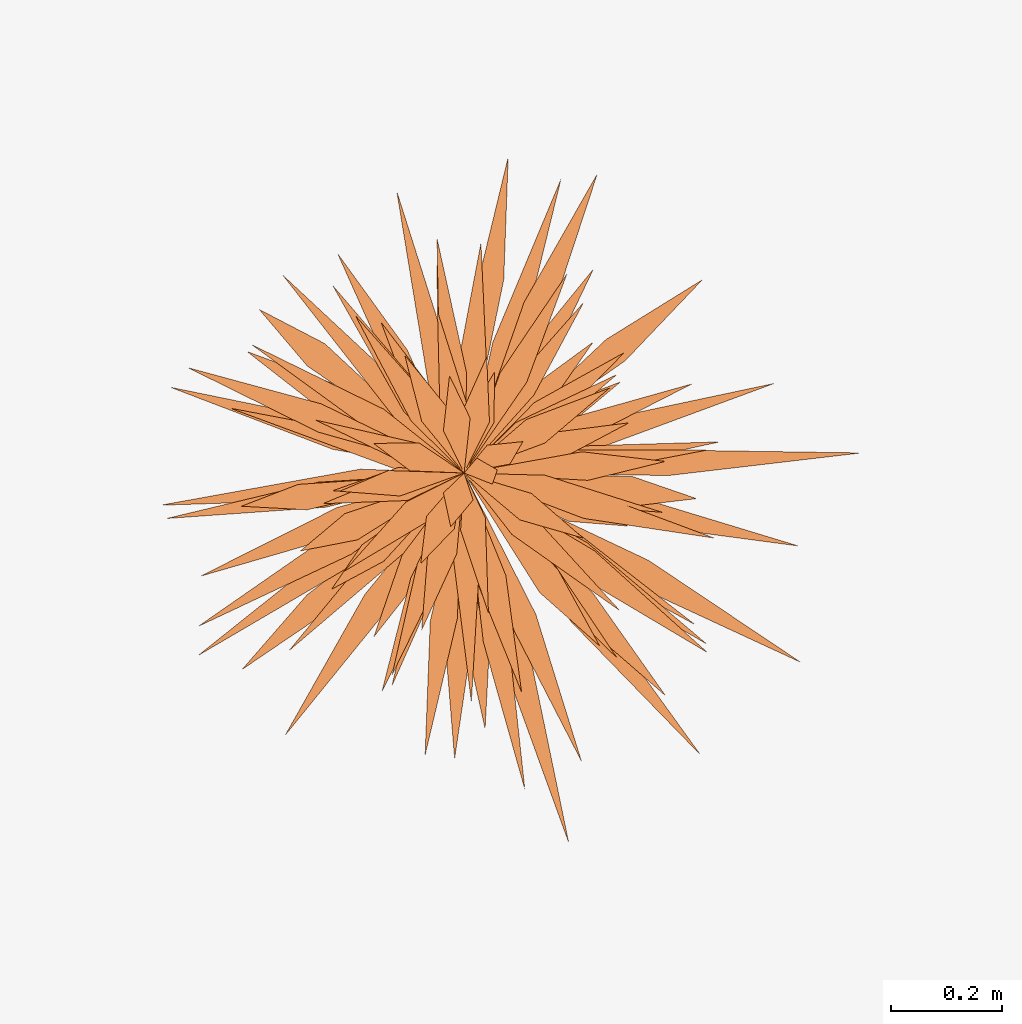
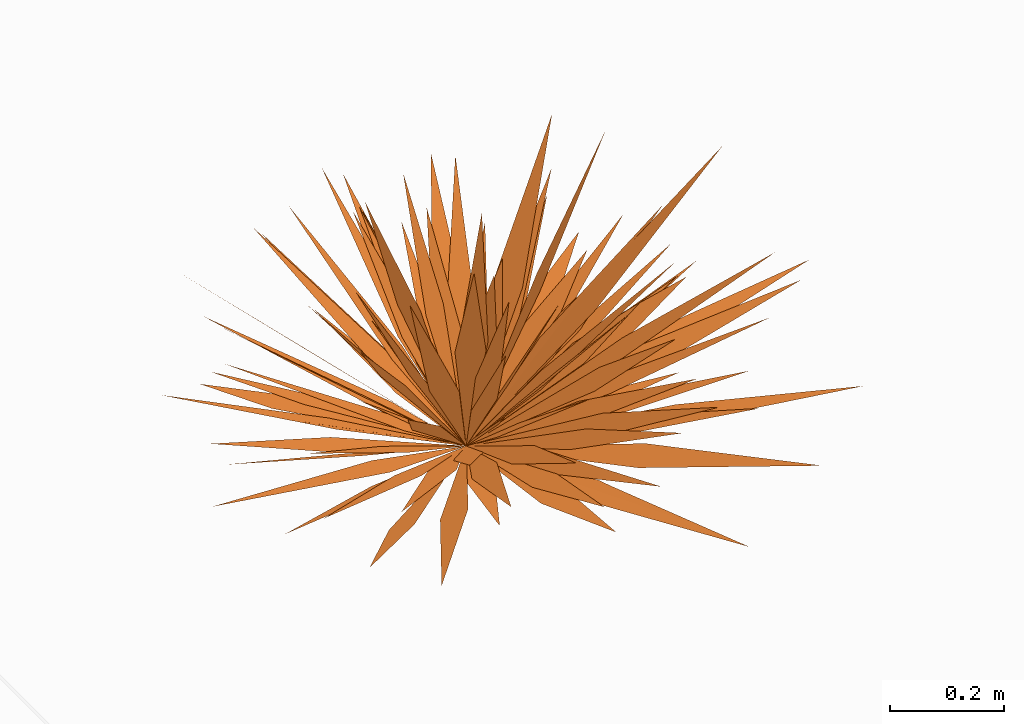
# One storey, part 6 of 7: 1 proxy.
"""IFC2X3 building model written with IfcOpenShell, lengths in metres."""

from ifc_helpers import new_model, entity, si_unit, converted_unit, derived_unit, money_unit, direction, frame, origin_with_axes, place, context, subcontext, project, spatial, open_shell, surface_model, type_object, element, save


model = new_model("IFC2X3")

# Units and contexts
model_context = context("Model", 3, precision=1e-05, world=origin_with_axes(), true_north=direction((0.0, 1.0)))
body_context = subcontext(model_context, "Body", "Model", "MODEL_VIEW")
ifc_project = project(units=[si_unit("LENGTHUNIT", "METRE"), si_unit("AREAUNIT", "SQUARE_METRE"), si_unit("VOLUMEUNIT", "CUBIC_METRE"), converted_unit("PLANEANGLEUNIT", "DEGREE", entity("IfcPlaneAngleMeasure", 0.0174532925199), si_unit("PLANEANGLEUNIT", "RADIAN"), dimensions=[0, 0, 0, 0, 0, 0, 0]), si_unit("SOLIDANGLEUNIT", "STERADIAN"), money_unit("CHF"), converted_unit("TIMEUNIT", "Year", entity("IfcTimeMeasure", 31556926.0), si_unit("TIMEUNIT", "SECOND"), dimensions=[0, 0, 1, 0, 0, 0, 0]), si_unit("MASSUNIT", "GRAM", prefix="KILO"), si_unit("THERMODYNAMICTEMPERATUREUNIT", "DEGREE_CELSIUS"), si_unit("LUMINOUSINTENSITYUNIT", "LUMEN"), si_unit("ENERGYUNIT", "JOULE", prefix="MEGA"), derived_unit("THERMALCONDUCTANCEUNIT", [(si_unit("POWERUNIT", "WATT"), 1), (si_unit("LENGTHUNIT", "METRE"), -1), (si_unit("THERMODYNAMICTEMPERATUREUNIT", "KELVIN"), -1)]), derived_unit("SPECIFICHEATCAPACITYUNIT", [(si_unit("ENERGYUNIT", "JOULE"), 1), (si_unit("MASSUNIT", "GRAM", prefix="KILO"), -1), (si_unit("THERMODYNAMICTEMPERATUREUNIT", "KELVIN"), -1)]), derived_unit("MASSDENSITYUNIT", [(si_unit("MASSUNIT", "GRAM", prefix="KILO"), 1), (si_unit("VOLUMEUNIT", "CUBIC_METRE"), -1)])], contexts=[model_context])

# Site, building, storey
site_placement = place(None, origin_with_axes())
site = spatial("IfcSite", under=ifc_project, at=site_placement, Name="Site", CompositionType="ELEMENT")
building_placement = place(site_placement, origin_with_axes())
building = spatial("IfcBuilding", under=site, at=building_placement, Name="Bâtiment", CompositionType="ELEMENT")
storey_placement = place(building_placement, frame((0.0, 0.0, 9.0), z_axis=(0.0, 0.0, 1.0), x_axis=(1.0, 0.0, 0.0)))
storey = spatial("IfcBuildingStorey", under=building, at=storey_placement, Name="TOITURE", CompositionType="ELEMENT", Elevation=9.0)

# Proxy
building_element_proxy_type = type_object("IfcBuildingElementProxyType", Name="Modèle herbe 24", PredefinedType="NOTDEFINED")
proxy_placement = place(storey_placement, frame((83.2438262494, 5.22679544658, -9.3), z_axis=(0.0, 0.0, 1.0), x_axis=(0.0, -1.0, 0.0)))
element("IfcBuildingElementProxy", 1, at=proxy_placement, inside=storey, type_object=building_element_proxy_type, Name="Symb-0005", context=body_context, shape_type="SurfaceModel", body=[
    surface_model("IfcShellBasedSurfaceModel", [(0.0, 0.0, 0.0), (0.320393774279, 0.117015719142, 0.06360163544), (0.66566454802, 0.188476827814, 0.121988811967), (0.335373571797, 0.0686588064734, 0.0565734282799)], [open_shell([[[0, 1, 2, 3]]])]),
    surface_model("IfcShellBasedSurfaceModel", [(0.0, 0.0, 0.0), (0.234204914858, 0.228331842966, 0.0672935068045), (0.50783729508, 0.426021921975, 0.11688143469), (0.268140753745, 0.193083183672, 0.0483240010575)], [open_shell([[[0, 1, 2, 3]]])]),
    surface_model("IfcShellBasedSurfaceModel", [(0.0, 0.0, 0.0), (0.157257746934, 0.332137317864, 0.0676594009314), (0.341020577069, 0.606517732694, 0.122690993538), (0.202576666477, 0.307841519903, 0.0618003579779)], [open_shell([[[0, 1, 2, 3]]])]),
    surface_model("IfcShellBasedSurfaceModel", [(0.0, 0.0, 0.0), (0.00526185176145, 0.138793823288, 0.036988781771), (0.0776850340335, 0.385817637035, 0.0693954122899), (0.0497282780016, 0.134311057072, 0.0121334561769)], [open_shell([[[0, 1, 2, 3]]])]),
    surface_model("IfcShellBasedSurfaceModel", [(0.0, 0.0, 0.0), (-0.0414534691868, 0.362726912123, 0.0759765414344), (-0.03620941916, 0.715141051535, 0.126260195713), (0.00440093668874, 0.369065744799, 0.0532235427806)], [open_shell([[[0, 1, 2, 3]]])]),
    surface_model("IfcShellBasedSurfaceModel", [(0.0, 0.0, 0.0), (-0.0868409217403, 0.207189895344, 0.0394923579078), (-0.161339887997, 0.55853820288, 0.102511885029), (-0.0370284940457, 0.221630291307, 0.0392115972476)], [open_shell([[[0, 1, 2, 3]]])]),
    surface_model("IfcShellBasedSurfaceModel", [(0.0, 0.0, 0.0), (-0.240429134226, 0.255610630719, 0.0681535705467), (-0.347889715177, 0.428965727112, 0.0973859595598), (-0.201846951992, 0.289738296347, 0.0556542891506)], [open_shell([[[0, 1, 2, 3]]])]),
    surface_model("IfcShellBasedSurfaceModel", [(0.0, 0.0, 0.0), (-0.186813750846, 0.0860380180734, 0.0367440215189), (-0.367229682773, 0.232899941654, 0.0766769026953), (-0.15770003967, 0.132455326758, 0.0351898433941)], [open_shell([[[0, 1, 2, 3]]])]),
    surface_model("IfcShellBasedSurfaceModel", [(0.0, 0.0, 0.0), (-0.235237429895, 0.0515996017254, 0.0532164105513), (-0.52914809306, 0.17445538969, 0.0982431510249), (-0.223365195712, 0.0995975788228, 0.0319290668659)], [open_shell([[[0, 1, 2, 3]]])]),
    surface_model("IfcShellBasedSurfaceModel", [(0.0, 0.0, 0.0), (-0.181819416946, -0.0470516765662, 0.0455781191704), (-0.375034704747, -0.048676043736, 0.0666834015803), (-0.192119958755, -0.00148220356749, 0.0209105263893)], [open_shell([[[0, 1, 2, 3]]])]),
    surface_model("IfcShellBasedSurfaceModel", [(0.0, 0.0, 0.0), (-0.196432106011, -0.138571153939, 0.0543763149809), (-0.394718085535, -0.227486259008, 0.0803308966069), (-0.221982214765, -0.102571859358, 0.0307771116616)], [open_shell([[[0, 1, 2, 3]]])]),
    surface_model("IfcShellBasedSurfaceModel", [(0.0, 0.0, 0.0), (-0.192407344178, -0.282020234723, 0.0624107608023), (-0.294377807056, -0.368688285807, 0.0831899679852), (-0.232940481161, -0.250699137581, 0.0577908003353)], [open_shell([[[0, 1, 2, 3]]])]),
    surface_model("IfcShellBasedSurfaceModel", [(0.0, 0.0, 0.0), (-0.0425200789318, -0.235290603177, 0.0427279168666), (-0.129165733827, -0.441615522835, 0.0811311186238), (-0.091049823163, -0.221382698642, 0.0411695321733)], [open_shell([[[0, 1, 2, 3]]])]),
    surface_model("IfcShellBasedSurfaceModel", [(0.0, 0.0, 0.0), (0.0459125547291, -0.180472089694, 0.0349607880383), (0.0579972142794, -0.546930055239, 0.0969792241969), (-0.00695326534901, -0.186924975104, 0.03018443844)], [open_shell([[[0, 1, 2, 3]]])]),
    surface_model("IfcShellBasedSurfaceModel", [(0.0, 0.0, 0.0), (0.108238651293, -0.206622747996, 0.0513525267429), (0.18573375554, -0.474550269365, 0.0898567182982), (0.0620773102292, -0.228535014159, 0.0310451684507)], [open_shell([[[0, 1, 2, 3]]])]),
    surface_model("IfcShellBasedSurfaceModel", [(0.0, 0.0, 0.0), (0.251763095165, -0.249643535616, 0.0729966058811), (0.353584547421, -0.39955534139, 0.0940777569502), (0.219575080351, -0.282975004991, 0.0524116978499)], [open_shell([[[0, 1, 2, 3]]])]),
    surface_model("IfcShellBasedSurfaceModel", [(0.0, 0.0, 0.0), (0.242652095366, -0.135956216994, 0.0608309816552), (0.472193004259, -0.322155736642, 0.100792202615), (0.218480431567, -0.178653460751, 0.037600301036)], [open_shell([[[0, 1, 2, 3]]])]),
    surface_model("IfcShellBasedSurfaceModel", [(0.0, 0.0, 0.0), (0.130490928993, -0.0182657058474, 0.0233350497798), (0.31280252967, -0.112799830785, 0.0586321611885), (0.112308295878, -0.0692902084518, 0.022175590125)], [open_shell([[[0, 1, 2, 3]]])]),
    surface_model("IfcShellBasedSurfaceModel", [(0.0, 0.0, 0.0), (0.264039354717, 0.0482119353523, 0.0519915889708), (0.460237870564, 0.0377747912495, 0.0814252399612), (0.270035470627, -0.00437685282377, 0.042496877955)], [open_shell([[[0, 1, 2, 3]]])]),
    surface_model("IfcShellBasedSurfaceModel", [(0.0, 0.0, 0.0), (0.275110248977, 0.106919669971, 0.0573183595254), (0.569070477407, 0.163566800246, 0.104405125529), (0.291699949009, 0.055997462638, 0.0466720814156)], [open_shell([[[0, 1, 2, 3]]])]),
    surface_model("IfcShellBasedSurfaceModel", [(0.0, 0.0, 0.0), (0.215521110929, 0.231555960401, 0.115552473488), (0.400809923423, 0.362631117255, 0.196729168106), (0.252303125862, 0.191706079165, 0.114069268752)], [open_shell([[[0, 1, 2, 3]]])]),
    surface_model("IfcShellBasedSurfaceModel", [(0.0, 0.0, 0.0), (0.0750546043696, 0.161528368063, 0.0721968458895), (0.27284699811, 0.415653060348, 0.180967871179), (0.121194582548, 0.137436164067, 0.0579669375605)], [open_shell([[[0, 1, 2, 3]]])]),
    surface_model("IfcShellBasedSurfaceModel", [(0.0, 0.0, 0.0), (0.0483051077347, 0.328411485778, 0.132076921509), (0.131364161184, 0.601951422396, 0.224248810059), (0.0944916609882, 0.325927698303, 0.111688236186)], [open_shell([[[0, 1, 2, 3]]])]),
    surface_model("IfcShellBasedSurfaceModel", [(0.0, 0.0, 0.0), (-0.047350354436, 0.164876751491, 0.0642101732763), (-0.0560698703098, 0.460184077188, 0.16873199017), (0.00617614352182, 0.17305369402, 0.0596960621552)], [open_shell([[[0, 1, 2, 3]]])]),
    surface_model("IfcShellBasedSurfaceModel", [(0.0, 0.0, 0.0), (-0.109379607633, 0.136690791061, 0.0647074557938), (-0.163874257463, 0.281366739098, 0.11851242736), (-0.0654674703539, 0.163515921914, 0.0617404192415)], [open_shell([[[0, 1, 2, 3]]])]),
    surface_model("IfcShellBasedSurfaceModel", [(0.0, 0.0, 0.0), (-0.150824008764, 0.11634683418, 0.0798702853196), (-0.235483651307, 0.232083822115, 0.120339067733), (-0.123585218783, 0.154100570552, 0.0603608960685)], [open_shell([[[0, 1, 2, 3]]])]),
    surface_model("IfcShellBasedSurfaceModel", [(0.0, 0.0, 0.0), (-0.307373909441, 0.107989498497, 0.124072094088), (-0.538090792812, 0.239671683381, 0.21439799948), (-0.289332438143, 0.157790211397, 0.113680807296)], [open_shell([[[0, 1, 2, 3]]])]),
    surface_model("IfcShellBasedSurfaceModel", [(0.0, 0.0, 0.0), (-0.346203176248, 0.0255832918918, 0.139038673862), (-0.568596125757, 0.0793946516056, 0.208959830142), (-0.348215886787, 0.071380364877, 0.116161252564)], [open_shell([[[0, 1, 2, 3]]])]),
    surface_model("IfcShellBasedSurfaceModel", [(0.0, 0.0, 0.0), (-0.158185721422, -0.0640633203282, 0.0634051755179), (-0.507091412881, -0.121196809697, 0.189764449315), (-0.171300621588, -0.0146851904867, 0.0598956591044)], [open_shell([[[0, 1, 2, 3]]])]),
    surface_model("IfcShellBasedSurfaceModel", [(0.0, 0.0, 0.0), (-0.0858444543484, -0.114783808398, 0.0581866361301), (-0.356217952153, -0.32641309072, 0.175853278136), (-0.125111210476, -0.0785211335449, 0.0459553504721)], [open_shell([[[0, 1, 2, 3]]])]),
    surface_model("IfcShellBasedSurfaceModel", [(0.0, 0.0, 0.0), (-0.117111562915, -0.260402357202, 0.109045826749), (-0.218625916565, -0.39056556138, 0.162910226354), (-0.162479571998, -0.239074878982, 0.0992929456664)], [open_shell([[[0, 1, 2, 3]]])]),
    surface_model("IfcShellBasedSurfaceModel", [(0.0, 0.0, 0.0), (-0.0426605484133, -0.236386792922, 0.092148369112), (-0.154467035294, -0.528850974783, 0.200528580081), (-0.0922182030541, -0.225399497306, 0.0829507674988)], [open_shell([[[0, 1, 2, 3]]])]),
    surface_model("IfcShellBasedSurfaceModel", [(0.0, 0.0, 0.0), (0.0615365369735, -0.248494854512, 0.103223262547), (0.0818595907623, -0.535674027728, 0.197232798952), (0.0164999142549, -0.262161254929, 0.0847980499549)], [open_shell([[[0, 1, 2, 3]]])]),
    surface_model("IfcShellBasedSurfaceModel", [(0.0, 0.0, 0.0), (0.152574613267, -0.178735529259, 0.0915321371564), (0.328687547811, -0.479082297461, 0.211464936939), (0.114201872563, -0.210107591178, 0.0801016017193)], [open_shell([[[0, 1, 2, 3]]])]),
    surface_model("IfcShellBasedSurfaceModel", [(0.0, 0.0, 0.0), (0.134569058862, -0.0973306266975, 0.0649757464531), (0.319965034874, -0.315422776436, 0.163531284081), (0.101636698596, -0.135521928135, 0.055746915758)], [open_shell([[[0, 1, 2, 3]]])]),
    surface_model("IfcShellBasedSurfaceModel", [(0.0, 0.0, 0.0), (0.157934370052, -0.0292465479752, 0.0710818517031), (0.382539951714, -0.129746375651, 0.147023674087), (0.151189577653, -0.0755992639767, 0.0477254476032)], [open_shell([[[0, 1, 2, 3]]])]),
    surface_model("IfcShellBasedSurfaceModel", [(0.0, 0.0, 0.0), (0.290228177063, 0.0158373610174, 0.11091595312), (0.514237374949, -0.0170361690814, 0.187269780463), (0.292096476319, -0.0351291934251, 0.101149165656)], [open_shell([[[0, 1, 2, 3]]])]),
    surface_model("IfcShellBasedSurfaceModel", [(0.0, 0.0, 0.0), (0.170750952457, 0.0554556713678, 0.0769214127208), (0.513348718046, 0.0978563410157, 0.190208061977), (0.186813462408, 0.0127045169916, 0.0555648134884)], [open_shell([[[0, 1, 2, 3]]])]),
    surface_model("IfcShellBasedSurfaceModel", [(0.0, 0.0, 0.0), (0.254180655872, 0.129074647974, 0.179078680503), (0.518787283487, 0.21129659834, 0.323412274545), (0.284109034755, 0.0901650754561, 0.156491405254)], [open_shell([[[0, 1, 2, 3]]])]),
    surface_model("IfcShellBasedSurfaceModel", [(0.0, 0.0, 0.0), (0.125225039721, 0.221250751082, 0.147814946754), (0.307848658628, 0.436906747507, 0.308576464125), (0.16708827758, 0.193607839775, 0.145189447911)], [open_shell([[[0, 1, 2, 3]]])]),
    surface_model("IfcShellBasedSurfaceModel", [(0.0, 0.0, 0.0), (0.00629837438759, 0.303036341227, 0.17784190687), (0.0460606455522, 0.418426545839, 0.243037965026), (0.0601056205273, 0.300194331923, 0.17253728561)], [open_shell([[[0, 1, 2, 3]]])]),
    surface_model("IfcShellBasedSurfaceModel", [(0.0, 0.0, 0.0), (-0.041178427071, 0.159273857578, 0.0948298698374), (-0.0415041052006, 0.438446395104, 0.254268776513), (0.0104754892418, 0.165069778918, 0.0932671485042)], [open_shell([[[0, 1, 2, 3]]])]),
    surface_model("IfcShellBasedSurfaceModel", [(0.0, 0.0, 0.0), (-0.0867420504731, 0.147564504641, 0.0993862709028), (-0.160474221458, 0.410356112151, 0.254390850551), (-0.0369423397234, 0.168714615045, 0.0966837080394)], [open_shell([[[0, 1, 2, 3]]])]),
    surface_model("IfcShellBasedSurfaceModel", [(0.0, 0.0, 0.0), (-0.156772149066, 0.0826391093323, 0.114684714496), (-0.307148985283, 0.215298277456, 0.216559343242), (-0.140502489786, 0.125737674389, 0.094912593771)], [open_shell([[[0, 1, 2, 3]]])]),
    surface_model("IfcShellBasedSurfaceModel", [(0.0, 0.0, 0.0), (-0.199983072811, -0.0100812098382, 0.126532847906), (-0.413745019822, 0.0303328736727, 0.239516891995), (-0.206572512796, 0.0398870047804, 0.108822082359)], [open_shell([[[0, 1, 2, 3]]])]),
    surface_model("IfcShellBasedSurfaceModel", [(0.0, 0.0, 0.0), (-0.0993178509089, -0.0846664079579, 0.0826861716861), (-0.271314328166, -0.149390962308, 0.178819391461), (-0.131387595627, -0.0423645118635, 0.0693684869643)], [open_shell([[[0, 1, 2, 3]]])]),
    surface_model("IfcShellBasedSurfaceModel", [(0.0, 0.0, 0.0), (-0.0677600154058, -0.157538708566, 0.113364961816), (-0.23112896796, -0.382399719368, 0.257972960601), (-0.114832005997, -0.144557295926, 0.0904338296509)], [open_shell([[[0, 1, 2, 3]]])]),
    surface_model("IfcShellBasedSurfaceModel", [(0.0, 0.0, 0.0), (-0.00626420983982, -0.121128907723, 0.0708854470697), (-0.116745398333, -0.420969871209, 0.252220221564), (-0.0576017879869, -0.109164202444, 0.0670925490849)], [open_shell([[[0, 1, 2, 3]]])]),
    surface_model("IfcShellBasedSurfaceModel", [(0.0, 0.0, 0.0), (0.0662444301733, -0.282750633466, 0.177539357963), (0.0597998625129, -0.400918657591, 0.234031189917), (0.0204852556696, -0.298714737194, 0.161883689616)], [open_shell([[[0, 1, 2, 3]]])]),
    surface_model("IfcShellBasedSurfaceModel", [(0.0, 0.0, 0.0), (0.146439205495, -0.203444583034, 0.146104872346), (0.276186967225, -0.478822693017, 0.319139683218), (0.103696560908, -0.230213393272, 0.142932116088)], [open_shell([[[0, 1, 2, 3]]])]),
    surface_model("IfcShellBasedSurfaceModel", [(0.0, 0.0, 0.0), (0.167652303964, -0.0622245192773, 0.110071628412), (0.294681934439, -0.162336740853, 0.194242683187), (0.148217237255, -0.111784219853, 0.0981370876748)], [open_shell([[[0, 1, 2, 3]]])]),
    surface_model("IfcShellBasedSurfaceModel", [(0.0, 0.0, 0.0), (0.262019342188, -0.0121965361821, 0.163850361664), (0.507521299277, -0.0701639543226, 0.29580446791), (0.266682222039, -0.0608955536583, 0.144298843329)], [open_shell([[[0, 1, 2, 3]]])]),
    surface_model("IfcShellBasedSurfaceModel", [(0.0, 0.0, 0.0), (0.285032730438, 0.0785688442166, 0.181833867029), (0.569023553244, 0.109342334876, 0.334536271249), (0.303774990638, 0.0345751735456, 0.164333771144)], [open_shell([[[0, 1, 2, 3]]])]),
    surface_model("IfcShellBasedSurfaceModel", [(0.0, 0.0, 0.0), (0.140146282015, 0.146196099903, 0.129347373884), (0.33281138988, 0.275327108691, 0.249378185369), (0.178674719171, 0.117557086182, 0.10954770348)], [open_shell([[[0, 1, 2, 3]]])]),
    surface_model("IfcShellBasedSurfaceModel", [(0.0, 0.0, 0.0), (0.139973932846, 0.234602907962, 0.233805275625), (0.323470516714, 0.43856732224, 0.457270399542), (0.186108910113, 0.207506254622, 0.227158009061)], [open_shell([[[0, 1, 2, 3]]])]),
    surface_model("IfcShellBasedSurfaceModel", [(0.0, 0.0, 0.0), (0.0368028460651, 0.194715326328, 0.174343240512), (0.0955291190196, 0.295644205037, 0.260703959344), (0.0869326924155, 0.188222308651, 0.16333751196)], [open_shell([[[0, 1, 2, 3]]])]),
    surface_model("IfcShellBasedSurfaceModel", [(0.0, 0.0, 0.0), (-0.0382803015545, 0.212147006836, 0.187195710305), (-0.0209011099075, 0.36212111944, 0.304361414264), (0.0131848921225, 0.222642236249, 0.178242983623)], [open_shell([[[0, 1, 2, 3]]])]),
    surface_model("IfcShellBasedSurfaceModel", [(0.0, 0.0, 0.0), (-0.0725884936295, 0.15526487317, 0.15842776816), (-0.0903722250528, 0.296796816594, 0.260331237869), (-0.030865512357, 0.184494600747, 0.139587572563)], [open_shell([[[0, 1, 2, 3]]])]),
    surface_model("IfcShellBasedSurfaceModel", [(0.0, 0.0, 0.0), (-0.127083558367, 0.12684053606, 0.161007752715), (-0.216740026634, 0.288343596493, 0.302679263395), (-0.093536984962, 0.16666556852, 0.147090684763)], [open_shell([[[0, 1, 2, 3]]])]),
    surface_model("IfcShellBasedSurfaceModel", [(0.0, 0.0, 0.0), (-0.180102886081, 0.0646846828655, 0.167093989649), (-0.358440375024, 0.185116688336, 0.338509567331), (-0.163926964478, 0.112989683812, 0.157806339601)], [open_shell([[[0, 1, 2, 3]]])]),
    surface_model("IfcShellBasedSurfaceModel", [(0.0, 0.0, 0.0), (-0.162824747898, -0.0441786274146, 0.150657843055), (-0.421538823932, -0.0486080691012, 0.356056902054), (-0.179059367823, 0.00475562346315, 0.138117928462)], [open_shell([[[0, 1, 2, 3]]])]),
    surface_model("IfcShellBasedSurfaceModel", [(0.0, 0.0, 0.0), (-0.110659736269, -0.108527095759, 0.128304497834), (-0.337376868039, -0.236363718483, 0.345655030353), (-0.139798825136, -0.0669423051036, 0.128299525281)], [open_shell([[[0, 1, 2, 3]]])]),
    surface_model("IfcShellBasedSurfaceModel", [(0.0, 0.0, 0.0), (-0.0735924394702, -0.262318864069, 0.241268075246), (-0.18965921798, -0.497315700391, 0.446613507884), (-0.124543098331, -0.257223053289, 0.22530564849)], [open_shell([[[0, 1, 2, 3]]])]),
    surface_model("IfcShellBasedSurfaceModel", [(0.0, 0.0, 0.0), (0.0408044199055, -0.110008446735, 0.0975359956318), (0.0317968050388, -0.23614880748, 0.199940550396), (-0.0100589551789, -0.118332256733, 0.095793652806)], [open_shell([[[0, 1, 2, 3]]])]),
    surface_model("IfcShellBasedSurfaceModel", [(0.0, 0.0, 0.0), (0.158606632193, -0.144287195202, 0.189465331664), (0.209177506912, -0.238431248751, 0.266147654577), (0.129355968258, -0.183947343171, 0.176924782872)], [open_shell([[[0, 1, 2, 3]]])]),
    surface_model("IfcShellBasedSurfaceModel", [(0.0, 0.0, 0.0), (0.192751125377, -0.0474509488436, 0.17863067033), (0.394273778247, -0.148146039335, 0.353418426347), (0.188495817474, -0.0958003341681, 0.163110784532)], [open_shell([[[0, 1, 2, 3]]])]),
    surface_model("IfcShellBasedSurfaceModel", [(0.0, 0.0, 0.0), (0.137142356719, 0.029305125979, 0.122902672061), (0.411979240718, 0.0130836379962, 0.34586591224), (0.145718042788, -0.0203220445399, 0.114565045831)], [open_shell([[[0, 1, 2, 3]]])]),
    surface_model("IfcShellBasedSurfaceModel", [(0.0, 0.0, 0.0), (0.173699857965, 0.168941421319, 0.214360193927), (0.311188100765, 0.244048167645, 0.331839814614), (0.214921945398, 0.135833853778, 0.200052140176)], [open_shell([[[0, 1, 2, 3]]])]),
    surface_model("IfcShellBasedSurfaceModel", [(0.0, 0.0, 0.0), (0.0319088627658, 0.221576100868, 0.271903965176), (0.117145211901, 0.450513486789, 0.554755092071), (0.0817436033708, 0.215505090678, 0.266310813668)], [open_shell([[[0, 1, 2, 3]]])]),
    surface_model("IfcShellBasedSurfaceModel", [(0.0, 0.0, 0.0), (-0.0911790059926, 0.0936383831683, 0.161074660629), (-0.177345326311, 0.27503463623, 0.39000655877), (-0.05215314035, 0.128647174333, 0.1541322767)], [open_shell([[[0, 1, 2, 3]]])]),
    surface_model("IfcShellBasedSurfaceModel", [(0.0, 0.0, 0.0), (-0.093922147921, 0.00204926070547, 0.119969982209), (-0.1821212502, 0.0549827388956, 0.226719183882), (-0.0907813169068, 0.0537130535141, 0.10996375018)], [open_shell([[[0, 1, 2, 3]]])]),
    surface_model("IfcShellBasedSurfaceModel", [(0.0, 0.0, 0.0), (-0.0981453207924, -0.0432045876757, 0.131756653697), (-0.29109116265, -0.0478590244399, 0.35156640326), (-0.114574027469, 0.00823086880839, 0.125155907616)], [open_shell([[[0, 1, 2, 3]]])]),
    surface_model("IfcShellBasedSurfaceModel", [(0.0, 0.0, 0.0), (-0.0938025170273, -0.09536369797, 0.160876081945), (-0.283061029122, -0.195397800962, 0.409907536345), (-0.125921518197, -0.0563124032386, 0.157311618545)], [open_shell([[[0, 1, 2, 3]]])]),
    surface_model("IfcShellBasedSurfaceModel", [(0.0, 0.0, 0.0), (-0.00499222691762, -0.0810402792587, 0.111923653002), (-0.0954555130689, -0.26757548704, 0.338567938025), (-0.0537018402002, -0.0834876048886, 0.0962563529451)], [open_shell([[[0, 1, 2, 3]]])]),
    surface_model("IfcShellBasedSurfaceModel", [(0.0, 0.0, 0.0), (0.120205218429, -0.191767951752, 0.268519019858), (0.14024009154, -0.294743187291, 0.388995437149), (0.0732285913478, -0.214772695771, 0.268024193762)], [open_shell([[[0, 1, 2, 3]]])]),
    surface_model("IfcShellBasedSurfaceModel", [(0.0, 0.0, 0.0), (0.167219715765, -0.0337343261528, 0.214232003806), (0.363229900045, -0.129616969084, 0.459616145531), (0.162883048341, -0.0840613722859, 0.203466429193)], [open_shell([[[0, 1, 2, 3]]])]),
    surface_model("IfcShellBasedSurfaceModel", [(0.0, 0.0, 0.0), (0.184280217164, 0.0751199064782, 0.244055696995), (0.394422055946, 0.103504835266, 0.485969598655), (0.20590579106, 0.0272732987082, 0.236694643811)], [open_shell([[[0, 1, 2, 3]]])]),
    surface_model("IfcShellBasedSurfaceModel", [(0.0, 0.0, 0.0), (0.0665107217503, 0.114451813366, 0.162665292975), (0.247645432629, 0.280311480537, 0.445758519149), (0.110573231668, 0.0859906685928, 0.156083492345)], [open_shell([[[0, 1, 2, 3]]])]),
    surface_model("IfcShellBasedSurfaceModel", [(0.0, 0.0, 0.0), (0.00398422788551, 0.145689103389, 0.182189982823), (0.0707379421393, 0.356642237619, 0.433309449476), (0.0540226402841, 0.146766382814, 0.173134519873)], [open_shell([[[0, 1, 2, 3]]])]),
    surface_model("IfcShellBasedSurfaceModel", [(0.0, 0.0, 0.0), (-0.0963103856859, 0.111868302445, 0.260023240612), (-0.152871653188, 0.261731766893, 0.524995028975), (-0.0538715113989, 0.145258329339, 0.255734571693)], [open_shell([[[0, 1, 2, 3]]])]),
    surface_model("IfcShellBasedSurfaceModel", [(0.0, 0.0, 0.0), (-0.0981205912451, -0.00873017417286, 0.168581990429), (-0.209010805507, 0.0407328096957, 0.368827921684), (-0.091625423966, 0.0457085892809, 0.166250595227)], [open_shell([[[0, 1, 2, 3]]])]),
    surface_model("IfcShellBasedSurfaceModel", [(0.0, 0.0, 0.0), (-0.0929451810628, -0.0762079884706, 0.203383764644), (-0.211985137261, -0.106800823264, 0.411135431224), (-0.116730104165, -0.0294291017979, 0.203271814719)], [open_shell([[[0, 1, 2, 3]]])]),
    surface_model("IfcShellBasedSurfaceModel", [(0.0, 0.0, 0.0), (-0.00394176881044, -0.0969888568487, 0.162190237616), (-0.053350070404, -0.163154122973, 0.29731547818), (-0.0542290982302, -0.0809081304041, 0.16199113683)], [open_shell([[[0, 1, 2, 3]]])]),
    surface_model("IfcShellBasedSurfaceModel", [(0.0, 0.0, 0.0), (0.0494603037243, -0.102456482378, 0.193152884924), (0.0551620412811, -0.254188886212, 0.450515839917), (-0.00225587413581, -0.115063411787, 0.192372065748)], [open_shell([[[0, 1, 2, 3]]])]),
    surface_model("IfcShellBasedSurfaceModel", [(0.0, 0.0, 0.0), (0.0859750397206, -0.0637604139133, 0.191210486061), (0.176763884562, -0.215598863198, 0.482892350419), (0.0519256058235, -0.104436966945, 0.185513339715)], [open_shell([[[0, 1, 2, 3]]])]),
    surface_model("IfcShellBasedSurfaceModel", [(0.0, 0.0, 0.0), (0.145105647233, -0.0131419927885, 0.265422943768), (0.282338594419, -0.0762846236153, 0.506560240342), (0.146071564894, -0.0655307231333, 0.256995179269)], [open_shell([[[0, 1, 2, 3]]])]),
    surface_model("IfcShellBasedSurfaceModel", [(0.0, 0.0, 0.0), (0.0801211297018, 0.0381250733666, 0.1654014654), (0.25220069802, 0.0438560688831, 0.443379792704), (0.103105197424, -0.00626320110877, 0.156718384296)], [open_shell([[[0, 1, 2, 3]]])]),
    surface_model("IfcShellBasedSurfaceModel", [(0.0, 0.0, 0.0), (0.03674850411, 0.121258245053, 0.347671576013), (0.117146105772, 0.214390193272, 0.671230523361), (0.0843240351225, 0.100317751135, 0.346056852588)], [open_shell([[[0, 1, 2, 3]]])]),
    surface_model("IfcShellBasedSurfaceModel", [(0.0, 0.0, 0.0), (-0.0500696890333, 0.0414736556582, 0.196827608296), (-0.0565191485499, 0.105788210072, 0.32953193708), (-0.0161834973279, 0.0825339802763, 0.189458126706)], [open_shell([[[0, 1, 2, 3]]])]),
    surface_model("IfcShellBasedSurfaceModel", [(0.0, 0.0, 0.0), (-0.0761909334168, -0.037212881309, 0.245875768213), (-0.174917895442, -0.0262999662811, 0.485984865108), (-0.0988095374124, 0.0109004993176, 0.24033852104)], [open_shell([[[0, 1, 2, 3]]])]),
    surface_model("IfcShellBasedSurfaceModel", [(0.0, 0.0, 0.0), (0.0413589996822, -0.11541777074, 0.35222516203), (0.0328145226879, -0.223802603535, 0.621466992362), (-0.00443442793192, -0.136416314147, 0.347081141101)], [open_shell([[[0, 1, 2, 3]]])]),
    surface_model("IfcShellBasedSurfaceModel", [(0.0, 0.0, 0.0), (0.100216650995, -0.0176317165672, 0.271453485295), (0.162939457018, -0.0780183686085, 0.496344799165), (0.0778399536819, -0.0676250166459, 0.270941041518)], [open_shell([[[0, 1, 2, 3]]])]),
    surface_model("IfcShellBasedSurfaceModel", [(0.0, 0.0, 0.0), (-0.0269950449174, 0.0228460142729, 0.212083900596), (-0.00564983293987, 0.0598698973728, 0.341047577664), (0.020036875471, 0.0508880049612, 0.207940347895)], [open_shell([[[0, 1, 2, 3]]])]),
    surface_model("IfcShellBasedSurfaceModel", [(0.0, 0.0, 0.0), (0.0487312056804, 0.0161160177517, 0.246978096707), (0.096713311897, -0.0241240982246, 0.565294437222), (0.0357674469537, -0.0371933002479, 0.24692100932)], [open_shell([[[0, 1, 2, 3]]])]),
])

save(model, "model.ifc")
